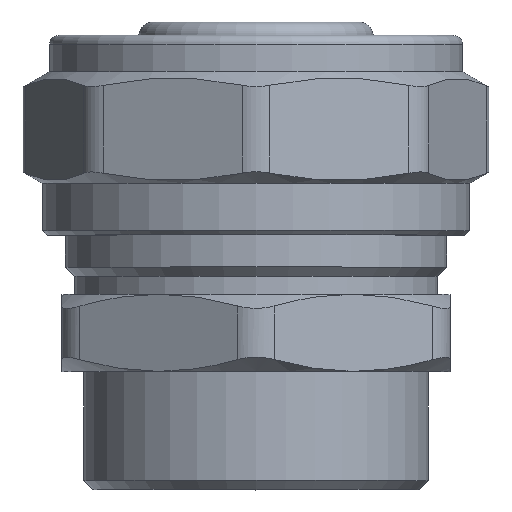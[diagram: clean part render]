
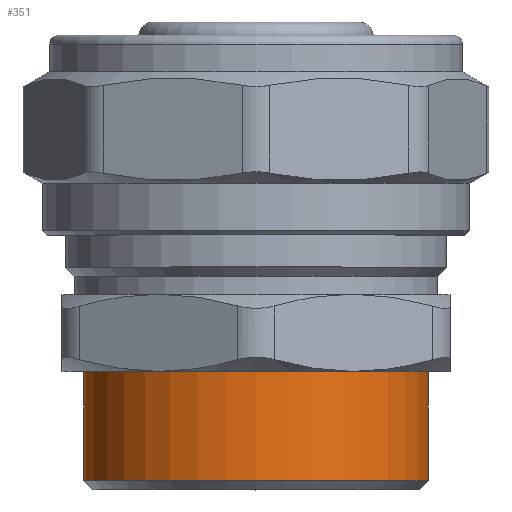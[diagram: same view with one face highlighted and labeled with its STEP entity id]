
A CAD part, top view. The second image highlights one B-rep face of the part: STEP entity #351.
In plain terms, the highlighted cylindrical face has radius 19 mm (diameter 38 mm), a full revolution.
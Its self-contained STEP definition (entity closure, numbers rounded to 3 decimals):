
#351=ADVANCED_FACE('',(#2426,#2428),#2430,.T.);
#2426=FACE_OUTER_BOUND('',#2427,.T.);
#2427=EDGE_LOOP('',(#4671));
#2428=FACE_OUTER_BOUND('',#2429,.T.);
#2429=EDGE_LOOP('',(#4672));
#2430=CYLINDRICAL_SURFACE('',#2431,19.);
#2431=AXIS2_PLACEMENT_3D('',#2432,#2433,#2434);
#2432=CARTESIAN_POINT('',(0.,0.,0.));
#2433=DIRECTION('',(0.,1.,0.));
#2434=DIRECTION('',(-1.,0.,0.));
#4671=ORIENTED_EDGE('',*,*,#5529,.F.);
#4672=ORIENTED_EDGE('',*,*,#5547,.T.);
#5529=EDGE_CURVE('',#6897,#6897,#6898,.T.);
#5547=EDGE_CURVE('',#6925,#6925,#6926,.T.);
#6897=VERTEX_POINT('',#12716);
#6898=CIRCLE('',#12717,19.);
#6925=VERTEX_POINT('',#12782);
#6926=CIRCLE('',#12783,19.);
#12716=CARTESIAN_POINT('',(-19.,13.,0.));
#12717=AXIS2_PLACEMENT_3D('',#12718,#12719,#12720);
#12718=CARTESIAN_POINT('',(0.,13.,0.));
#12719=DIRECTION('',(0.,1.,0.));
#12720=DIRECTION('',(-1.,0.,0.));
#12782=CARTESIAN_POINT('',(-19.,1.,0.));
#12783=AXIS2_PLACEMENT_3D('',#12784,#12785,#12786);
#12784=CARTESIAN_POINT('',(0.,1.,0.));
#12785=DIRECTION('',(0.,1.,0.));
#12786=DIRECTION('',(-1.,0.,0.));
